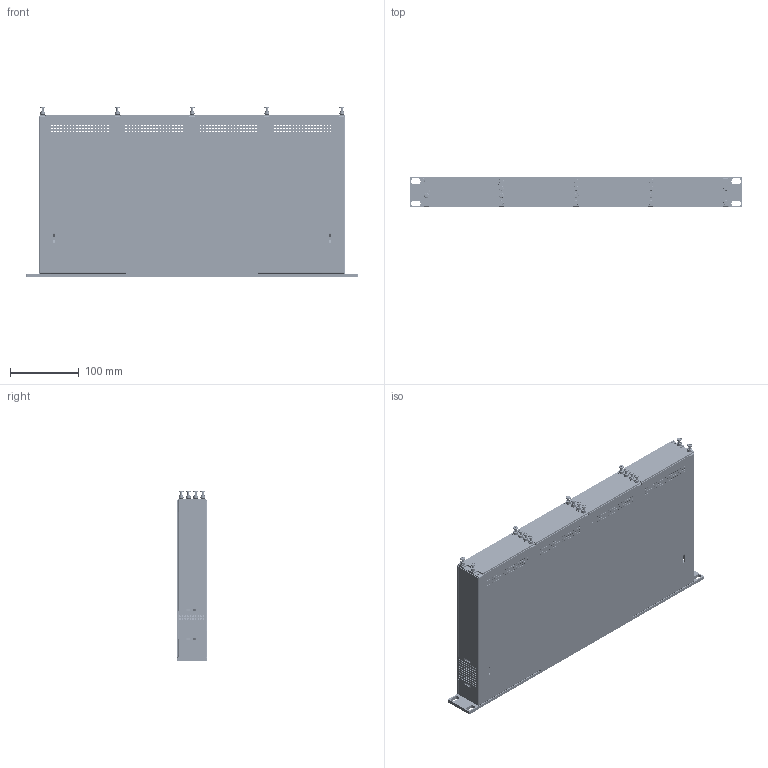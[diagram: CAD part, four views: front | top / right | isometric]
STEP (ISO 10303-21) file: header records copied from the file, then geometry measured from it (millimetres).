
FILE_DESCRIPTION(('FreeCAD Model'),'2;1');
FILE_NAME('Open CASCADE Shape Model','2022-12-07T16:12:19',('Author'),( ''),'Open CASCADE STEP processor 7.5','FreeCAD','Unknown');
FILE_SCHEMA(('AUTOMOTIVE_DESIGN { 1 0 10303 214 1 1 1 1 }'));
Length unit declared in the file: millimetre
Products named in the file (78): FG8101G01; Body; Body1; Body2; Body3; Body4; Body5; Body6; Body7; Top; Top1; Top2; Front; Front1; Front2; Front4; Panel; Panel003; Panel004; Panel005; Panel006; Panel009; Panel010; Panel011; Panel012; Panel013; Panel014; Panel015; Panel016; Panel017; Panel018; Panel019; Panel020; Panel021; Panel022; Panel023; Panel024; Panel025; Panel026; Panel027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
Assembly tree (79 placements, depth 4):
  FG8101G01
    Body
      Body1
      Body2
      Body3
      Body4
      Body5
      Body6
      Body7
    Top
      Top1
      Top2
    Front
      Front1
        Front2
      Front4
    Panel
      Panel003
        Panel004
        Panel005
      Panel006
        Panel004
        Panel005
      Panel009
    Panel010
      Panel011
        Panel012
        Panel013
      Panel014
        Panel015
        Panel016
      Panel017
    Panel018
      Panel019
        Panel020
        Panel021
      Panel022
        Panel023
        Panel024
      Panel025
    Panel026
      Panel027
        Panel028
        Panel029
      Panel030
        Panel031
        Panel032
      Panel033
    Panel034
      Panel035
        Panel036
        Panel037
      Panel038
        Panel039
        Panel040
      Panel041
    Panel042
      Panel043
        Panel044
        Panel045
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Bounding box: 482.8 x 44 x 247.75 mm (x, y, z)
Volume: 463268.6 mm3; surface area: 753672.8 mm2
Topology: 69 solids, 69 shells, 5993 faces, 23373 edges, 38746 vertices
Faces by surface type: cylinder 3018, plane 2561, cone 334, torus 64, bspline 16
Entity records: 506634 total; most frequent: CARTESIAN_POINT 120295, DIRECTION 72431, LINE 41023, VECTOR 41023, ORIENTED_EDGE 32118, PCURVE 32118, DEFINITIONAL_REPRESENTATION 32118, EDGE_CURVE 16059
